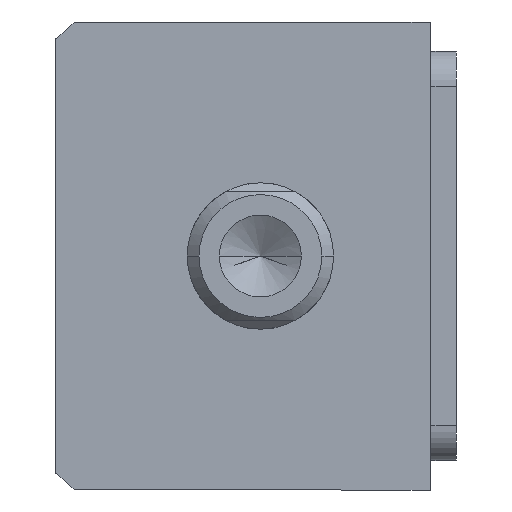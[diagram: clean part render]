
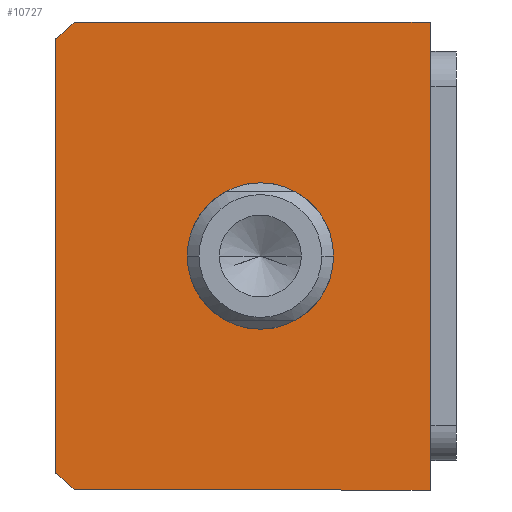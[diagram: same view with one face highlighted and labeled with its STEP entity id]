
A CAD part, front view. The second image highlights one B-rep face of the part: STEP entity #10727.
In plain terms, the highlighted planar face has unit normal (0, -1, 0) as drawn and (0, 0, -1) by its records, which use the part's own axes.
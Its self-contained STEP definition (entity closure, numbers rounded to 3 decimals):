
#86 = DIRECTION ( 'NONE',  ( 1., 0., 0. ) ) ;
#418 = EDGE_CURVE ( 'NONE', #6230, #868, #1877, .T. ) ;
#703 = VECTOR ( 'NONE', #4654, 1000. ) ;
#868 = VERTEX_POINT ( 'NONE', #10456 ) ;
#1030 = FACE_BOUND ( 'NONE', #9961, .T. ) ;
#1126 = DIRECTION ( 'NONE',  ( 1., 0., 0. ) ) ;
#1153 = CARTESIAN_POINT ( 'NONE',  ( -40., 32., 0. ) ) ;
#1175 = CARTESIAN_POINT ( 'NONE',  ( -12.5, 3., 0. ) ) ;
#1421 = ORIENTED_EDGE ( 'NONE', *, *, #6494, .T. ) ;
#1658 = DIRECTION ( 'NONE',  ( 0., -1., 0. ) ) ;
#1743 = CARTESIAN_POINT ( 'NONE',  ( 40., 32., 0. ) ) ;
#1805 = CARTESIAN_POINT ( 'NONE',  ( 0., 0., 0. ) ) ;
#1877 = LINE ( 'NONE', #6416, #8232 ) ;
#1989 = LINE ( 'NONE', #7444, #8349 ) ;
#2384 = AXIS2_PLACEMENT_3D ( 'NONE', #10005, #5052, #86 ) ;
#2592 = EDGE_CURVE ( 'NONE', #3464, #6230, #4605, .T. ) ;
#2866 = CARTESIAN_POINT ( 'NONE',  ( 0., 3., 0. ) ) ;
#2921 = VECTOR ( 'NONE', #6132, 1000. ) ;
#3248 = DIRECTION ( 'NONE',  ( 0., 0., 1. ) ) ;
#3328 = EDGE_CURVE ( 'NONE', #9959, #3464, #1989, .T. ) ;
#3464 = VERTEX_POINT ( 'NONE', #5092 ) ;
#3508 = VERTEX_POINT ( 'NONE', #1175 ) ;
#3679 = DIRECTION ( 'NONE',  ( 1., 0., 0. ) ) ;
#3754 = EDGE_CURVE ( 'NONE', #8443, #7551, #5103, .T. ) ;
#3772 = ORIENTED_EDGE ( 'NONE', *, *, #418, .F. ) ;
#3888 = VERTEX_POINT ( 'NONE', #8996 ) ;
#4053 = ORIENTED_EDGE ( 'NONE', *, *, #3754, .F. ) ;
#4338 = DIRECTION ( 'NONE',  ( 0., 0., 1. ) ) ;
#4532 = CIRCLE ( 'NONE', #6343, 12.5 ) ;
#4605 = CIRCLE ( 'NONE', #10290, 51. ) ;
#4654 = DIRECTION ( 'NONE',  ( 0., 1., 0. ) ) ;
#4767 = ORIENTED_EDGE ( 'NONE', *, *, #10358, .T. ) ;
#4944 = CARTESIAN_POINT ( 'NONE',  ( -40., 32., 0. ) ) ;
#5052 = DIRECTION ( 'NONE',  ( 0., 0., 1. ) ) ;
#5092 = CARTESIAN_POINT ( 'NONE',  ( -40., -28.639, 0. ) ) ;
#5103 = LINE ( 'NONE', #7149, #703 ) ;
#5184 = FACE_OUTER_BOUND ( 'NONE', #9304, .T. ) ;
#5408 = CIRCLE ( 'NONE', #8149, 51. ) ;
#5665 = ORIENTED_EDGE ( 'NONE', *, *, #6185, .F. ) ;
#6132 = DIRECTION ( 'NONE',  ( -1., 0., 0. ) ) ;
#6185 = EDGE_CURVE ( 'NONE', #868, #8443, #5408, .T. ) ;
#6230 = VERTEX_POINT ( 'NONE', #6636 ) ;
#6343 = AXIS2_PLACEMENT_3D ( 'NONE', #2866, #8662, #3679 ) ;
#6416 = CARTESIAN_POINT ( 'NONE',  ( -40., -32., 0. ) ) ;
#6494 = EDGE_CURVE ( 'NONE', #3508, #3888, #6835, .T. ) ;
#6636 = CARTESIAN_POINT ( 'NONE',  ( -37.094, -32., 0. ) ) ;
#6833 = ORIENTED_EDGE ( 'NONE', *, *, #3328, .F. ) ;
#6835 = CIRCLE ( 'NONE', #2384, 12.5 ) ;
#6882 = EDGE_CURVE ( 'NONE', #7551, #9959, #9535, .T. ) ;
#7149 = CARTESIAN_POINT ( 'NONE',  ( 40., 32., 0. ) ) ;
#7444 = CARTESIAN_POINT ( 'NONE',  ( -40., 32., 0. ) ) ;
#7551 = VERTEX_POINT ( 'NONE', #1743 ) ;
#8149 = AXIS2_PLACEMENT_3D ( 'NONE', #8222, #3248, #9061 ) ;
#8222 = CARTESIAN_POINT ( 'NONE',  ( 0., 3., 0. ) ) ;
#8232 = VECTOR ( 'NONE', #9143, 1000. ) ;
#8331 = DIRECTION ( 'NONE',  ( 0., 0., 1. ) ) ;
#8349 = VECTOR ( 'NONE', #1658, 1000. ) ;
#8443 = VERTEX_POINT ( 'NONE', #8973 ) ;
#8504 = ORIENTED_EDGE ( 'NONE', *, *, #6882, .F. ) ;
#8662 = DIRECTION ( 'NONE',  ( 0., 0., 1. ) ) ;
#8973 = CARTESIAN_POINT ( 'NONE',  ( 40., -28.639, 0. ) ) ;
#8996 = CARTESIAN_POINT ( 'NONE',  ( 12.5, 3., 0. ) ) ;
#9061 = DIRECTION ( 'NONE',  ( 1., 0., 0. ) ) ;
#9143 = DIRECTION ( 'NONE',  ( 1., 0., 0. ) ) ;
#9299 = PLANE ( 'NONE',  #9996 ) ;
#9304 = EDGE_LOOP ( 'NONE', ( #10062, #6833, #8504, #4053, #5665, #3772 ) ) ;
#9535 = LINE ( 'NONE', #1153, #2921 ) ;
#9635 = CARTESIAN_POINT ( 'NONE',  ( 0., 3., 0. ) ) ;
#9959 = VERTEX_POINT ( 'NONE', #4944 ) ;
#9961 = EDGE_LOOP ( 'NONE', ( #4767, #1421 ) ) ;
#9996 = AXIS2_PLACEMENT_3D ( 'NONE', #1805, #4338, #10140 ) ;
#10005 = CARTESIAN_POINT ( 'NONE',  ( 0., 3., 0. ) ) ;
#10062 = ORIENTED_EDGE ( 'NONE', *, *, #2592, .F. ) ;
#10140 = DIRECTION ( 'NONE',  ( 1., 0., 0. ) ) ;
#10290 = AXIS2_PLACEMENT_3D ( 'NONE', #9635, #8331, #1126 ) ;
#10358 = EDGE_CURVE ( 'NONE', #3888, #3508, #4532, .T. ) ;
#10456 = CARTESIAN_POINT ( 'NONE',  ( 37.094, -32., 0. ) ) ;
#10727 = ADVANCED_FACE ( 'NONE', ( #1030, #5184 ), #9299, .F. ) ;
